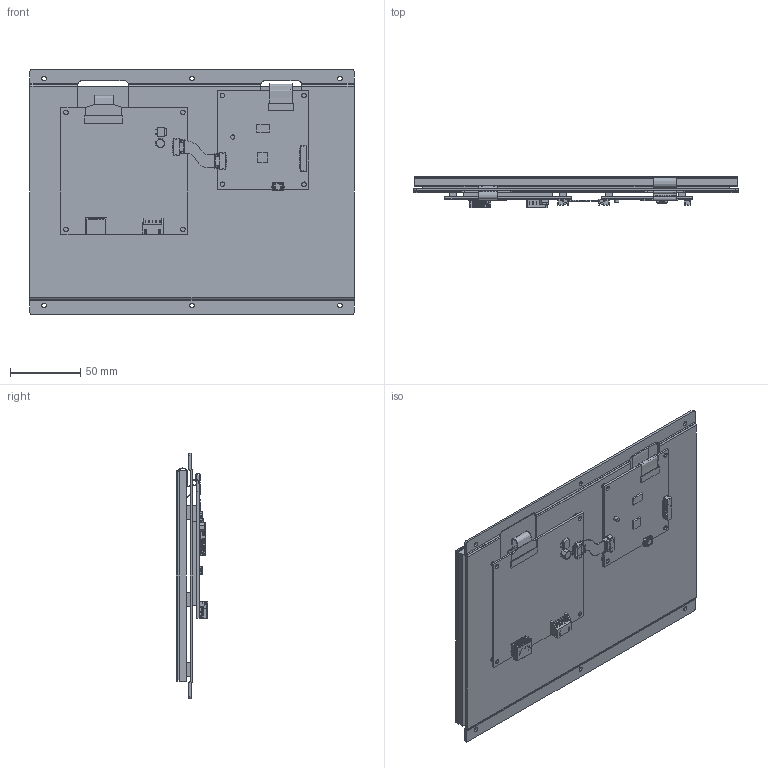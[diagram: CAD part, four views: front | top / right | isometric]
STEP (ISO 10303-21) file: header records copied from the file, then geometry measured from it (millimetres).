
FILE_DESCRIPTION((''),'2;1');
FILE_NAME('GTWX101VHA00P_ASM','2020-01-16T',('samx'),(''),'PRO/ENGINEER BY PARAMETRIC TECHNOLOGY CORPORATION, 2010280','PRO/ENGINEER BY PARAMETRIC TECHNOLOGY CORPORATION, 2010280','');
FILE_SCHEMA(('CONFIG_CONTROL_DESIGN'));
Products named in the file (9): GTWX101VHA00P; JST_S5B-XH-A; HOSIDEN_HDMI; HIROSE_MINI_USB-ZX62-AB-5PA; JST_SM12B-GHS-TB; JST_SM07B-GHS-TB; JST_GHR-07V-S; CABLE_GT-10IN; GTWX101VHA00P_ASM
Assembly tree (10 placements, depth 2):
  GTWX101VHA00P_ASM
    GTWX101VHA00P
    JST_S5B-XH-A
    HOSIDEN_HDMI
    HIROSE_MINI_USB-ZX62-AB-5PA
    JST_SM12B-GHS-TB
    JST_SM07B-GHS-TB  x2
    JST_GHR-07V-S  x2
    CABLE_GT-10IN
Bounding box: 230 x 22.35 x 174 mm (x, y, z)
Volume: 306760.5 mm3; surface area: 246333.7 mm2
Topology: 10 solids, 10 shells, 2471 faces, 7265 edges, 4815 vertices
Faces by surface type: plane 1966, cylinder 476, bspline 16, extrusion 9, cone 4
Entity records: 77067 total; most frequent: CARTESIAN_POINT 15115, ORIENTED_EDGE 13236, DIRECTION 12183, EDGE_CURVE 6618, VECTOR 5631, LINE 5622, VERTEX_POINT 4324, AXIS2_PLACEMENT_3D 3276
